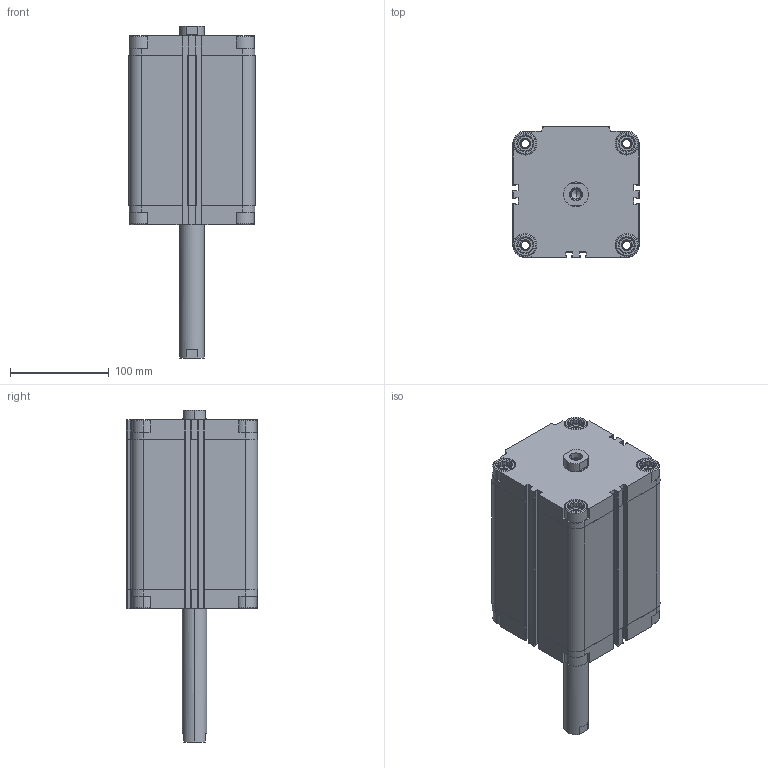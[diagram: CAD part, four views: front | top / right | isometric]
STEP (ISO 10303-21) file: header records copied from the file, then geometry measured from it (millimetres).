
FILE_DESCRIPTION (( 'STEP AP203' ), '1' );
FILE_NAME ('CDVU100-125F-P.STEP', '2020-07-24T18:43:18', ( '' ), ( '' ), 'SwSTEP 2.0', 'SolidWorks 2019', '' );
FILE_SCHEMA (( 'CONFIG_CONTROL_DESIGN' ));
Length unit declared in the file: millimetre
Products named in the file (1): CDVU100-125F-P
Bounding box: 128 x 133 x 336.5 mm (x, y, z)
Volume: 2150347.7 mm3; surface area: 291598.9 mm2
Topology: 2 solids, 2 shells, 670 faces, 1812 edges, 1188 vertices
Faces by surface type: plane 394, cylinder 212, cone 64
Entity records: 21267 total; most frequent: CARTESIAN_POINT 4239, ORIENTED_EDGE 3608, DIRECTION 3458, EDGE_CURVE 1804, VERTEX_POINT 1188, AXIS2_PLACEMENT_3D 1175, LINE 1108, VECTOR 1108
